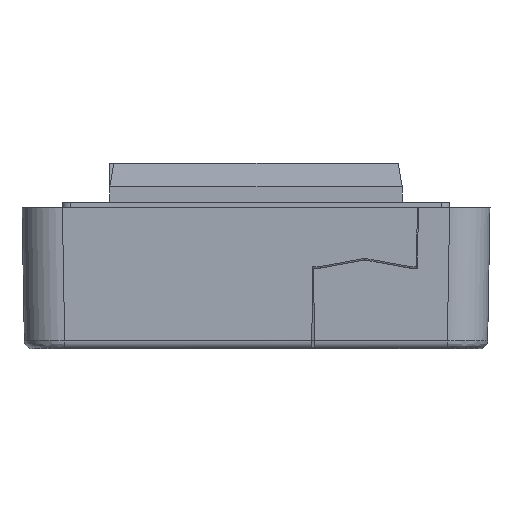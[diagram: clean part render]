
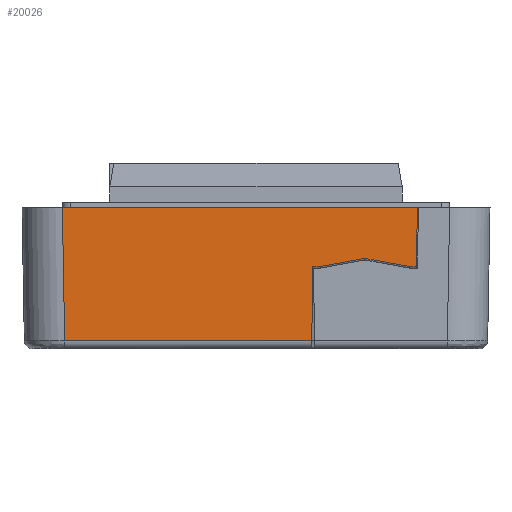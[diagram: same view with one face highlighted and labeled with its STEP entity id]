
A CAD part, left-side view. The second image highlights one B-rep face of the part: STEP entity #20026.
In plain terms, the highlighted planar face has unit normal (-1, 0, -0.018) as drawn and (1, 0, -0.017) by its records, which use the part's own axes.
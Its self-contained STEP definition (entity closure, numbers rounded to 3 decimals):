
#2798=FACE_OUTER_BOUND('',#4009,.T.);
#4009=EDGE_LOOP('',(#18025,#18026,#18027,#18028,#18029,#18030,#18031,#18032,
#18033));
#5349=LINE('',#32994,#7269);
#5497=LINE('',#34688,#7417);
#5501=LINE('',#34698,#7421);
#5503=LINE('',#34704,#7423);
#5506=LINE('',#34710,#7426);
#5907=LINE('',#36462,#7827);
#5912=LINE('',#36475,#7832);
#5913=LINE('',#36479,#7833);
#5914=LINE('',#36480,#7834);
#7269=VECTOR('',#24950,10.);
#7417=VECTOR('',#25520,10.);
#7421=VECTOR('',#25528,10.);
#7423=VECTOR('',#25534,10.);
#7426=VECTOR('',#25541,10.);
#7827=VECTOR('',#26330,10.);
#7832=VECTOR('',#26343,10.);
#7833=VECTOR('',#26348,10.);
#7834=VECTOR('',#26349,10.);
#9155=VERTEX_POINT('',#32991);
#9156=VERTEX_POINT('',#32993);
#9357=VERTEX_POINT('',#34685);
#9358=VERTEX_POINT('',#34687);
#9362=VERTEX_POINT('',#34697);
#9364=VERTEX_POINT('',#34703);
#9710=VERTEX_POINT('',#36458);
#9714=VERTEX_POINT('',#36474);
#9715=VERTEX_POINT('',#36478);
#11661=EDGE_CURVE('',#9155,#9156,#5349,.T.);
#11975=EDGE_CURVE('',#9357,#9358,#5497,.T.);
#11980=EDGE_CURVE('',#9358,#9362,#5501,.T.);
#11983=EDGE_CURVE('',#9362,#9364,#5503,.T.);
#11987=EDGE_CURVE('',#9364,#9155,#5506,.T.);
#12517=EDGE_CURVE('',#9156,#9710,#5907,.T.);
#12523=EDGE_CURVE('',#9710,#9714,#5912,.T.);
#12525=EDGE_CURVE('',#9357,#9715,#5913,.F.);
#12526=EDGE_CURVE('',#9714,#9715,#5914,.T.);
#18025=ORIENTED_EDGE('',*,*,#11975,.F.);
#18026=ORIENTED_EDGE('',*,*,#12525,.T.);
#18027=ORIENTED_EDGE('',*,*,#12526,.F.);
#18028=ORIENTED_EDGE('',*,*,#12523,.F.);
#18029=ORIENTED_EDGE('',*,*,#12517,.F.);
#18030=ORIENTED_EDGE('',*,*,#11661,.F.);
#18031=ORIENTED_EDGE('',*,*,#11987,.F.);
#18032=ORIENTED_EDGE('',*,*,#11983,.F.);
#18033=ORIENTED_EDGE('',*,*,#11980,.F.);
#18931=PLANE('',#21586);
#20026=ADVANCED_FACE('',(#2798),#18931,.T.);
#21586=AXIS2_PLACEMENT_3D('',#36477,#26346,#26347);
#24950=DIRECTION('',(-0.017,-0.009,-1.));
#25520=DIRECTION('',(0.,-1.,0.));
#25528=DIRECTION('',(0.003,-0.984,0.179));
#25534=DIRECTION('',(-0.003,-0.984,-0.179));
#25541=DIRECTION('',(0.,-1.,0.));
#26330=DIRECTION('',(0.,-1.,0.));
#26343=DIRECTION('',(0.017,-0.017,1.));
#26346=DIRECTION('center_axis',(1.,0.,-0.017));
#26347=DIRECTION('ref_axis',(-0.017,0.,-1.));
#26348=DIRECTION('',(-0.017,-0.017,-1.));
#26349=DIRECTION('',(0.,1.,0.));
#32991=CARTESIAN_POINT('',(73.873,7.002,-7.303));
#32993=CARTESIAN_POINT('',(73.712,6.921,-16.517));
#32994=CARTESIAN_POINT('',(73.932,7.031,-3.9));
#34685=CARTESIAN_POINT('',(73.873,19.873,-7.303));
#34687=CARTESIAN_POINT('',(73.873,19.018,-7.303));
#34688=CARTESIAN_POINT('',(73.873,-3.75,-7.303));
#34697=CARTESIAN_POINT('',(73.89,13.5,-6.3));
#34698=CARTESIAN_POINT('',(73.946,-4.131,-3.095));
#34703=CARTESIAN_POINT('',(73.873,7.982,-7.303));
#34704=CARTESIAN_POINT('',(73.829,-5.807,-9.811));
#34710=CARTESIAN_POINT('',(73.873,-3.75,-7.303));
#36458=CARTESIAN_POINT('',(73.712,-23.712,-16.517));
#36462=CARTESIAN_POINT('',(73.712,-13.75,-16.517));
#36474=CARTESIAN_POINT('',(74.,-24.001,0.));
#36475=CARTESIAN_POINT('',(73.849,-23.849,-8.672));
#36477=CARTESIAN_POINT('Origin',(74.,-27.5,0.));
#36478=CARTESIAN_POINT('',(74.,20.,0.));
#36479=CARTESIAN_POINT('',(73.993,19.993,-0.414));
#36480=CARTESIAN_POINT('',(74.,-27.5,0.));
